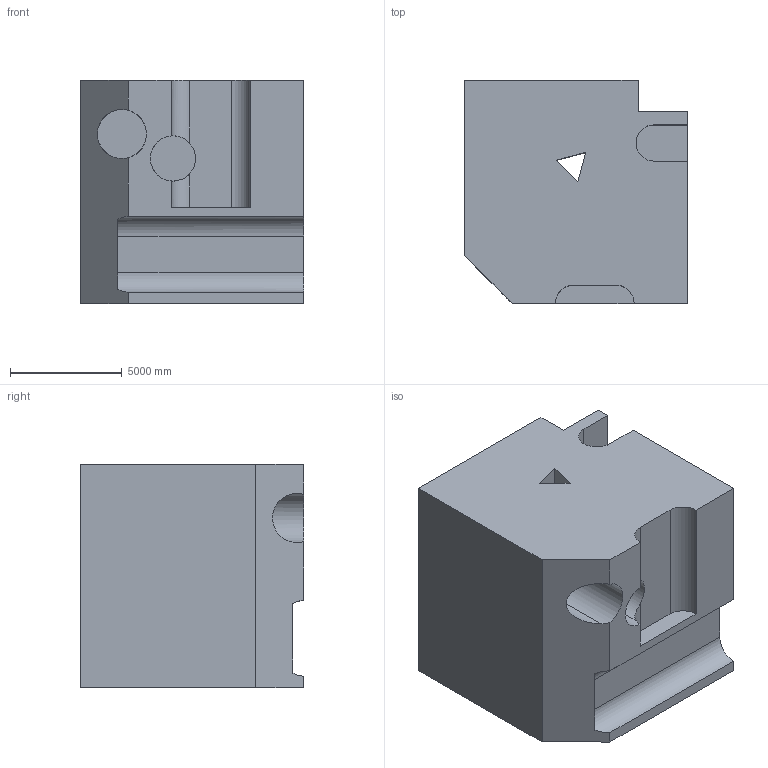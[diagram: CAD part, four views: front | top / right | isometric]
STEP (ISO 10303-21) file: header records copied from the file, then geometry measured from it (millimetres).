
FILE_DESCRIPTION (( 'STEP AP203' ), '1' );
FILE_NAME ('731.STEP', '2022-07-29T12:49:10', ( 'user' ), ( '' ), 'SwSTEP 2.0', 'SolidWorks 2021', '' );
FILE_SCHEMA (( 'CONFIG_CONTROL_DESIGN' ));
Length unit declared in the file: centimetre
Products named in the file (1): 731
Bounding box: 10000 x 10000 x 10000 mm (x, y, z)
Volume: 849345231577.8 mm3; surface area: 709866340.3 mm2
Topology: 1 solids, 1 shells, 32 faces, 90 edges, 60 vertices
Faces by surface type: plane 22, cylinder 10
Entity records: 1250 total; most frequent: CARTESIAN_POINT 344, ORIENTED_EDGE 180, DIRECTION 164, EDGE_CURVE 90, VECTOR 64, LINE 64, VERTEX_POINT 60, AXIS2_PLACEMENT_3D 50
